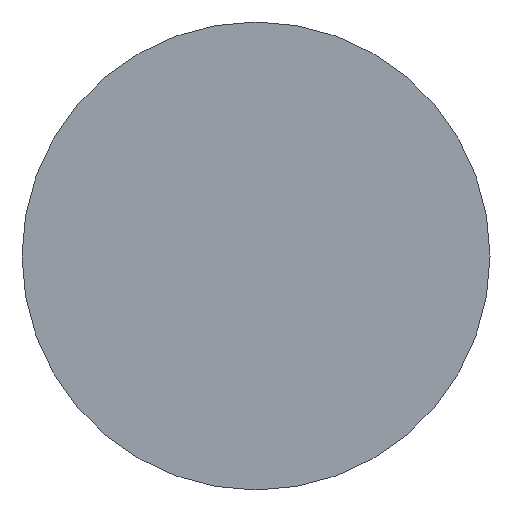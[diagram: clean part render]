
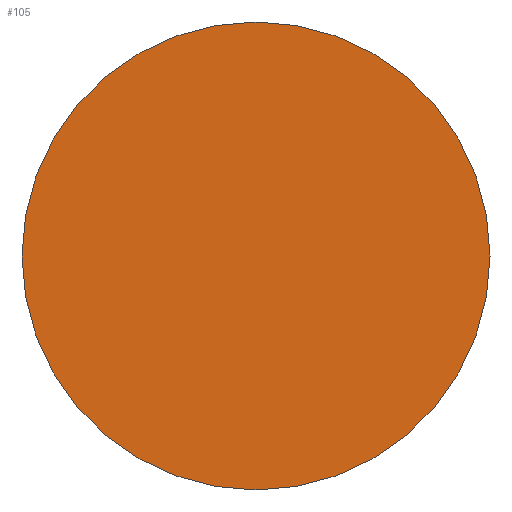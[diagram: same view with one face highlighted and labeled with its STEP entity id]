
A CAD part, front view. The second image highlights one B-rep face of the part: STEP entity #105.
In plain terms, the highlighted planar face has unit normal (0, -1, 0).
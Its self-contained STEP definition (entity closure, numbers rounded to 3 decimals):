
#21 = EDGE_CURVE('',#22,#22,#24,.T.);
#22 = VERTEX_POINT('',#23);
#23 = CARTESIAN_POINT('',(-26.8,-5.,-6.3));
#24 = SURFACE_CURVE('',#25,(#30,#42),.PCURVE_S1.);
#25 = CIRCLE('',#26,1.6);
#26 = AXIS2_PLACEMENT_3D('',#27,#28,#29);
#27 = CARTESIAN_POINT('',(-26.8,-5.,-4.7));
#28 = DIRECTION('',(0.,-1.,0.));
#29 = DIRECTION('',(0.,-0.,-1.));
#30 = PCURVE('',#31,#36);
#31 = CYLINDRICAL_SURFACE('',#32,1.6);
#32 = AXIS2_PLACEMENT_3D('',#33,#34,#35);
#33 = CARTESIAN_POINT('',(-26.8,3.,-4.7));
#34 = DIRECTION('',(0.,-1.,0.));
#35 = DIRECTION('',(0.,-0.,-1.));
#36 = DEFINITIONAL_REPRESENTATION('',(#37),#41);
#37 = LINE('',#38,#39);
#38 = CARTESIAN_POINT('',(0.,8.));
#39 = VECTOR('',#40,1.);
#40 = DIRECTION('',(1.,0.));
#41 = ( GEOMETRIC_REPRESENTATION_CONTEXT(2) 
PARAMETRIC_REPRESENTATION_CONTEXT() REPRESENTATION_CONTEXT('2D SPACE',''
  ) );
#42 = PCURVE('',#43,#48);
#43 = PLANE('',#44);
#44 = AXIS2_PLACEMENT_3D('',#45,#46,#47);
#45 = CARTESIAN_POINT('',(-26.8,-5.,-4.7));
#46 = DIRECTION('',(0.,-1.,0.));
#47 = DIRECTION('',(0.,-0.,-1.));
#48 = DEFINITIONAL_REPRESENTATION('',(#49),#53);
#49 = CIRCLE('',#50,1.6);
#50 = AXIS2_PLACEMENT_2D('',#51,#52);
#51 = CARTESIAN_POINT('',(0.,0.));
#52 = DIRECTION('',(1.,0.));
#53 = ( GEOMETRIC_REPRESENTATION_CONTEXT(2) 
PARAMETRIC_REPRESENTATION_CONTEXT() REPRESENTATION_CONTEXT('2D SPACE',''
  ) );
#105 = ADVANCED_FACE('',(#106),#43,.T.);
#106 = FACE_BOUND('',#107,.T.);
#107 = EDGE_LOOP('',(#108));
#108 = ORIENTED_EDGE('',*,*,#21,.T.);
